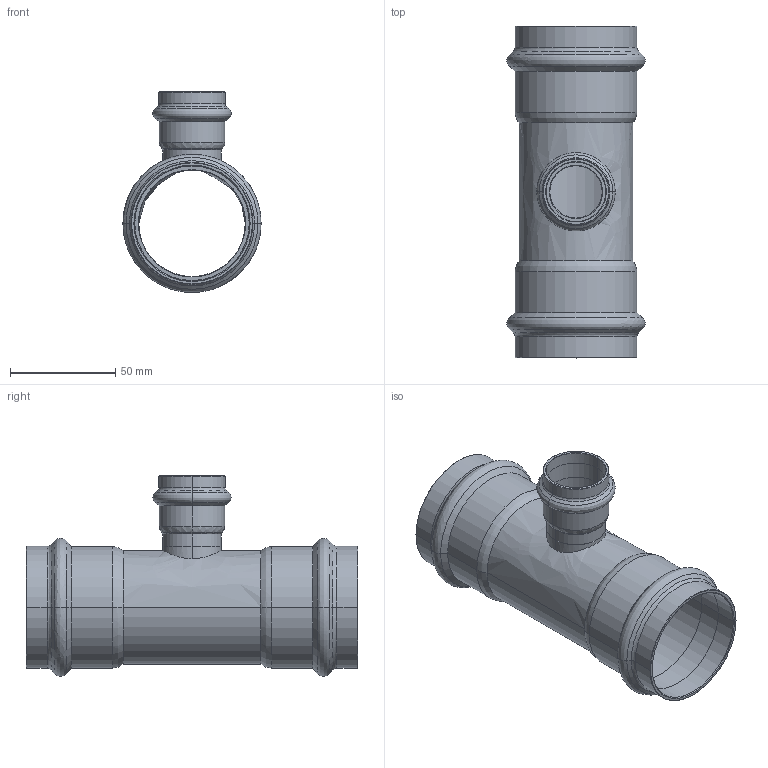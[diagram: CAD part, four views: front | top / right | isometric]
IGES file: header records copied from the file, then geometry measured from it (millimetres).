
Start section: Elysium IGES Interface
Global section: file name: C:\Users\Wallenburg\Desktop\3d modellen sudo\S-Pr VP\SP6130RV\6130RVW542854.igs; native system: CoCreate Modeling 17.00A  17-Jun-2010; preprocessor: CoCreate IGES_3D V2.2; author: Unknown; organization: Unknown; date: 20130117.151428; units: millimetre
Bounding box: 65.68 x 157.73 x 95.44 mm (x, y, z)
Volume: 62660.8 mm3; surface area: 63850.1 mm2
Topology: 1 solids, 1 shells, 128 faces, 264 edges, 146 vertices
Faces by surface type: bspline 128
